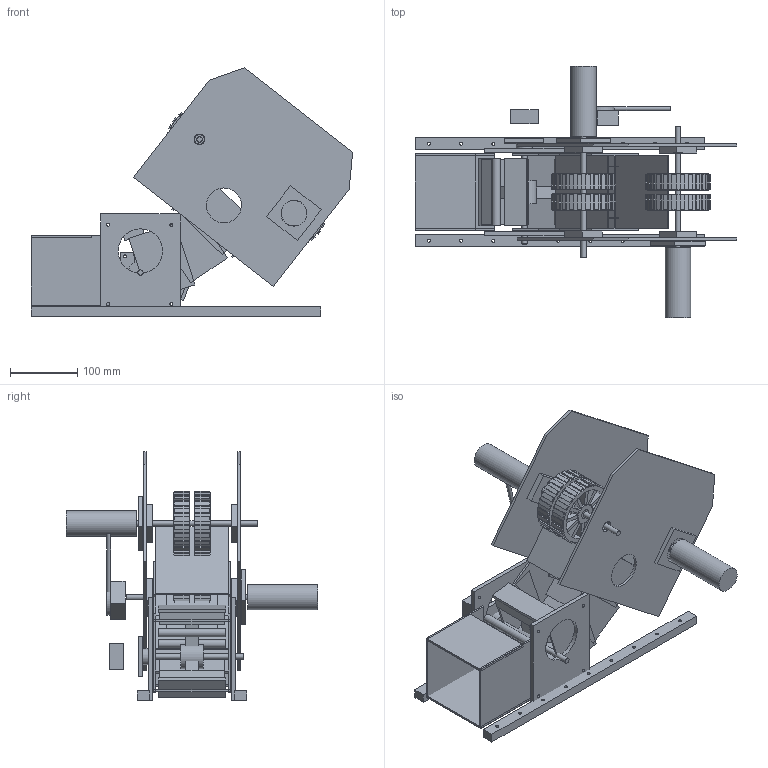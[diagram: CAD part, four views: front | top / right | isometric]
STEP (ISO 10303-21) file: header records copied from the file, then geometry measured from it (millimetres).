
FILE_DESCRIPTION(('Open CASCADE Model'),'2;1');
FILE_NAME('Open CASCADE Shape Model','2026-09-21T09:39:42',('Author'),( 'Open CASCADE'),'Open CASCADE STEP processor 7.8','Open CASCADE 7.8' ,'Unknown');
FILE_SCHEMA(('AUTOMOTIVE_DESIGN { 1 0 10303 214 1 1 1 1 }'));
Length unit declared in the file: millimetre
Products named in the file (63): paddle_feeder_opposed_flywheel_launcher; base_rail_-72; base_rail_+72; horizontal_floor; horizontal_roof; horizontal_wall_-1; horizontal_wall_+1; paddle_support_cheek_-1; paddle_support_cheek_+1; paddle_shaft; paddle_hub; paddle_arm_1; paddle_hinge_1; paddle_blade_1; paddle_flex_tip_1; paddle_arm_2; paddle_hinge_2; paddle_blade_2; paddle_flex_tip_2; paddle_arm_3; paddle_hinge_3; paddle_blade_3; paddle_flex_tip_3; paddle_cr_servo_envelope; paddle_servo_block; paddle_shaft_hub; rising_guide_floor_1; rising_guide_wall_1_-1; rising_guide_wall_1_+1; rising_guide_floor_2; rising_guide_wall_2_-1; rising_guide_wall_2_+1; rising_guide_floor_3; rising_guide_wall_3_-1; rising_guide_wall_3_+1; one_way_finger_-1; one_way_finger_+1; shooter_side_plate_-1; shooter_side_plate_+1; flywheel_shaft_upper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
Assembly tree (62 placements, depth 2):
  paddle_feeder_opposed_flywheel_launcher
    base_rail_-72
    base_rail_+72
    horizontal_floor
    horizontal_roof
    horizontal_wall_-1
    horizontal_wall_+1
    paddle_support_cheek_-1
    paddle_support_cheek_+1
    paddle_shaft
    paddle_hub
    paddle_arm_1
    paddle_hinge_1
    paddle_blade_1
    paddle_flex_tip_1
    paddle_arm_2
    paddle_hinge_2
    paddle_blade_2
    paddle_flex_tip_2
    paddle_arm_3
    paddle_hinge_3
    paddle_blade_3
    paddle_flex_tip_3
    paddle_cr_servo_envelope
    paddle_servo_block
    paddle_shaft_hub
    rising_guide_floor_1
    rising_guide_wall_1_-1
    rising_guide_wall_1_+1
    rising_guide_floor_2
    rising_guide_wall_2_-1
    rising_guide_wall_2_+1
    rising_guide_floor_3
    rising_guide_wall_3_-1
    rising_guide_wall_3_+1
    one_way_finger_-1
    one_way_finger_+1
    shooter_side_plate_-1
    shooter_side_plate_+1
    flywheel_shaft_upper
    gecko_flywheel_upper_1
    sonic_hub_upper_1
    gecko_flywheel_upper_2
    sonic_hub_upper_2
    bearing_block_upper_-1
    bearing_block_upper_+1
    motor_mount_upper
    motor_envelope_upper
    flywheel_shaft_lower
    gecko_flywheel_lower_1
    sonic_hub_lower_1
    gecko_flywheel_lower_2
    sonic_hub_lower_2
    bearing_block_lower_-1
    bearing_block_lower_+1
    motor_mount_lower
    motor_envelope_lower
    gap_servo_envelope
    gap_double_horn
    gap_link_upper
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Bounding box: 477.33 x 374 x 369.3 mm (x, y, z)
Volume: 2449123.9 mm3; surface area: 1028277.5 mm2
Topology: 62 solids, 62 shells, 1115 faces, 2625 edges, 1750 vertices
Faces by surface type: plane 996, cylinder 119
Full cylindrical faces by diameter (mm): 4.2 x19, 4.4 x12, 4.6 x26, 6 x2, 8 x3, 8.2 x6, 12 x3, 14.2 x12, 16 x4, 16.4 x1, 24 x1, 30 x4, 32 x4, 36 x1, 38 x2, 38.4 x2, 44 x5, 52 x2, 66 x2, 79 x4, 92 x4
Entity records: 68097 total; most frequent: CARTESIAN_POINT 10875, DIRECTION 10865, LINE 6583, VECTOR 6583, ORIENTED_EDGE 5250, PCURVE 5250, DEFINITIONAL_REPRESENTATION 5250, EDGE_CURVE 2625
